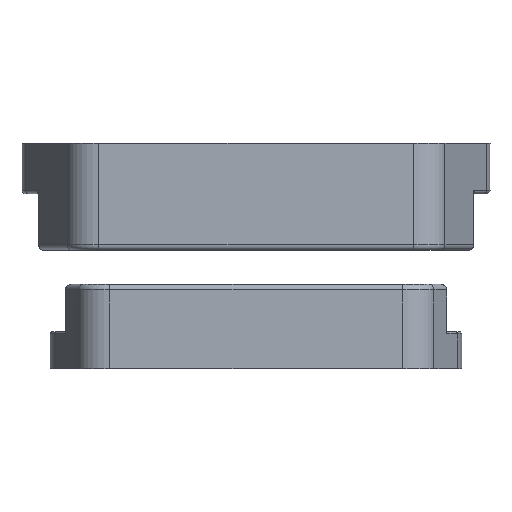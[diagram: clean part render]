
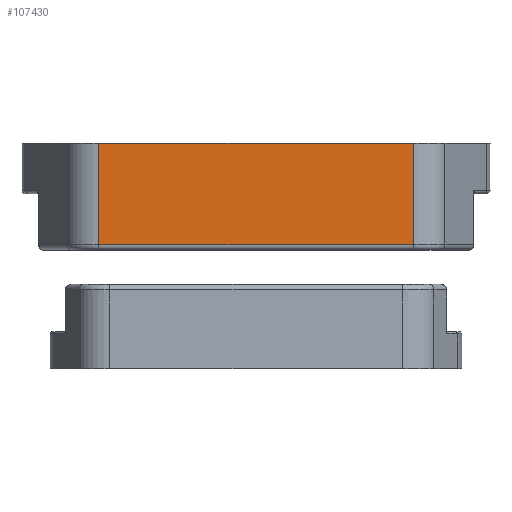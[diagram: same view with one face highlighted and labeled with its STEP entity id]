
A CAD part, front view. The second image highlights one B-rep face of the part: STEP entity #107430.
In plain terms, the highlighted planar face has unit normal (0, -1, 0).
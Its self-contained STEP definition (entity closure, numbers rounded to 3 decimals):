
#728 = EDGE_CURVE ( 'NONE', #123365, #83170, #94532, .T. ) ;
#4392 = PLANE ( 'NONE',  #82305 ) ;
#8843 = ORIENTED_EDGE ( 'NONE', *, *, #96539, .T. ) ;
#10409 = CARTESIAN_POINT ( 'NONE',  ( 13.955, -13., 9.5 ) ) ;
#12795 = DIRECTION ( 'NONE',  ( 0., 0., 1. ) ) ;
#13122 = LINE ( 'NONE', #14701, #110366 ) ;
#14701 = CARTESIAN_POINT ( 'NONE',  ( 13.955, -13., 0.5 ) ) ;
#17504 = DIRECTION ( 'NONE',  ( 0., 0., -1. ) ) ;
#30478 = LINE ( 'NONE', #75125, #78286 ) ;
#41893 = CARTESIAN_POINT ( 'NONE',  ( 13.955, -13., 9.5 ) ) ;
#49749 = CARTESIAN_POINT ( 'NONE',  ( -13.955, -13., 9.5 ) ) ;
#53104 = EDGE_CURVE ( 'NONE', #105570, #83170, #87601, .T. ) ;
#58387 = ORIENTED_EDGE ( 'NONE', *, *, #53104, .F. ) ;
#60854 = CARTESIAN_POINT ( 'NONE',  ( 16., -13., 9.5 ) ) ;
#66601 = VECTOR ( 'NONE', #80036, 1000. ) ;
#67747 = EDGE_LOOP ( 'NONE', ( #85200, #8843, #112771, #58387 ) ) ;
#70045 = CARTESIAN_POINT ( 'NONE',  ( 16., -13., 9.5 ) ) ;
#71304 = DIRECTION ( 'NONE',  ( 0., 1., 0. ) ) ;
#75125 = CARTESIAN_POINT ( 'NONE',  ( -13.955, -13., 9.5 ) ) ;
#78286 = VECTOR ( 'NONE', #17504, 1000. ) ;
#80036 = DIRECTION ( 'NONE',  ( 1., 0., 0. ) ) ;
#82305 = AXIS2_PLACEMENT_3D ( 'NONE', #60854, #71304, #12795 ) ;
#83170 = VERTEX_POINT ( 'NONE', #10409 ) ;
#85200 = ORIENTED_EDGE ( 'NONE', *, *, #107075, .T. ) ;
#87601 = LINE ( 'NONE', #70045, #66601 ) ;
#89885 = DIRECTION ( 'NONE',  ( 0., 0., 1. ) ) ;
#93183 = FACE_OUTER_BOUND ( 'NONE', #67747, .T. ) ;
#94532 = LINE ( 'NONE', #41893, #121446 ) ;
#96539 = EDGE_CURVE ( 'NONE', #123109, #123365, #13122, .T. ) ;
#99041 = CARTESIAN_POINT ( 'NONE',  ( 13.955, -13., 0.5 ) ) ;
#105570 = VERTEX_POINT ( 'NONE', #49749 ) ;
#107075 = EDGE_CURVE ( 'NONE', #105570, #123109, #30478, .T. ) ;
#107430 = ADVANCED_FACE ( 'NONE', ( #93183 ), #4392, .F. ) ;
#110366 = VECTOR ( 'NONE', #122804, 1000. ) ;
#112771 = ORIENTED_EDGE ( 'NONE', *, *, #728, .T. ) ;
#112955 = CARTESIAN_POINT ( 'NONE',  ( -13.955, -13., 0.5 ) ) ;
#121446 = VECTOR ( 'NONE', #89885, 1000. ) ;
#122804 = DIRECTION ( 'NONE',  ( 1., 0., 0. ) ) ;
#123109 = VERTEX_POINT ( 'NONE', #112955 ) ;
#123365 = VERTEX_POINT ( 'NONE', #99041 ) ;
